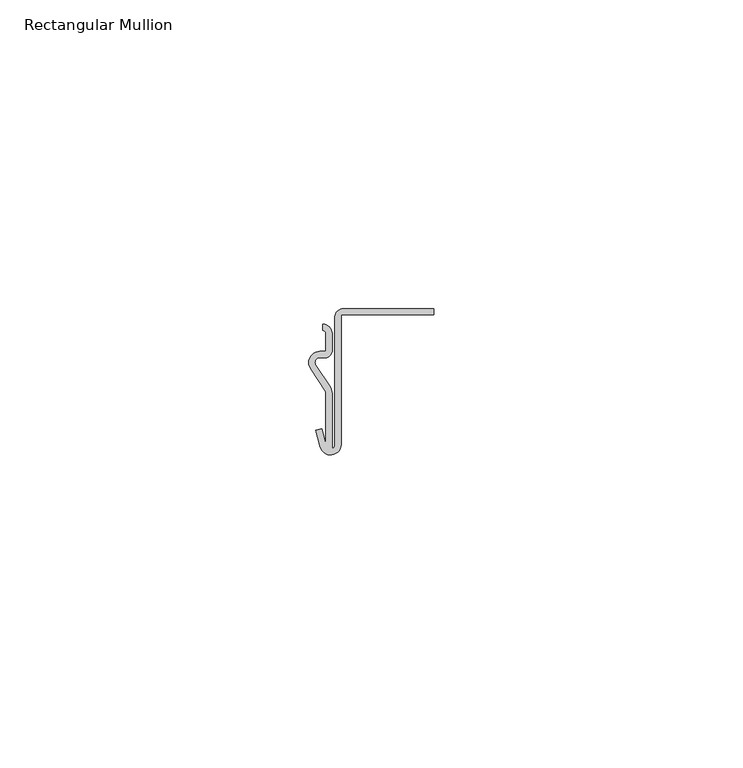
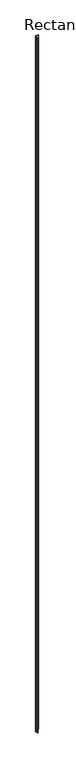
"""IFC4 building model written with IfcOpenShell, lengths in millimetres: member geometry, Rectangular Mullion : Stratco_Hiland_Tray Snaplock_25mm Rib_Underlap Tray."""

from ifc_helpers import new_model, si_unit, point, frame, frame_2d, origin, place, context, project, spatial, polyline, circle_curve, trimmed, segment, composite_curve, outline, extrude, source, transform, mapped, element, save


def rectangular_mullion_c66cf88a(model_context):
    return source(origin(), model_context, "Body", "SweptSolid", [
        extrude(outline(composite_curve([segment(polyline([(-17.5028833, -6.9114098), (-17.5028833, -3.9971167)]), True, "CONTINUOUS"), segment(trimmed(circle_curve(frame_2d((-18.0, -3.9971167)), 0.4971167), [point((-17.5028833, -3.9971167))], [point((-18.0, -3.5))], True, "CARTESIAN"), True, "CONTINUOUS"), segment(polyline([(-18.0, -3.5), (-18.0, -2.4999999)]), True, "CONTINUOUS"), segment(trimmed(circle_curve(frame_2d((-18.0, -3.9973005)), 1.4973006), [point((-18.0, -2.4999999))], [point((-16.5026994, -3.9973005))], False, "CARTESIAN"), True, "CONTINUOUS"), segment(polyline([(-16.5026994, -3.9973005), (-16.5026994, -6.9288725)]), True, "CONTINUOUS"), segment(trimmed(circle_curve(frame_2d((-17.5580688, -6.8533411)), 1.0580688), [point((-16.5026994, -6.9288725))], [point((-17.5580688, -7.9114098))], False, "CARTESIAN"), True, "CONTINUOUS"), segment(polyline([(-17.5580688, -7.9114098), (-18.4747805, -7.9114098)]), True, "CONTINUOUS"), segment(trimmed(circle_curve(frame_2d((-18.4747805, -8.705404)), 0.7939942), [point((-18.4747805, -7.9114098))], [point((-19.1379942, -9.1419522))], True, "CARTESIAN"), True, "CONTINUOUS"), segment(polyline([(-19.1379942, -9.1419522), (-16.8253915, -12.65531)]), True, "CONTINUOUS"), segment(trimmed(circle_curve(frame_2d((-18.4755165, -13.7414742)), 1.9755165), [point((-16.8253915, -12.65531))], [point((-16.5, -13.7414742))], False, "CARTESIAN"), True, "CONTINUOUS"), segment(polyline([(-16.5, -13.7414742), (-16.5, -22.6296637)]), True, "CONTINUOUS"), segment(trimmed(circle_curve(frame_2d((-16.7445319, -21.9531105)), 0.7193887), [point((-16.5, -22.6296637))], [point((-16.0252856, -21.9674219))], True, "CARTESIAN"), True, "CONTINUOUS"), segment(polyline([(-16.0252856, -21.9674219), (-16.0254232, -1.3275288)]), True, "CONTINUOUS"), segment(trimmed(circle_curve(frame_2d((-14.6978635, -1.3275108)), 1.3275596), [point((-16.0254232, -1.3275288))], [point((-14.6978635, 4.88e-05))], False, "CARTESIAN"), True, "CONTINUOUS"), segment(polyline([(-14.6978635, 4.88e-05), (0.0, 4.88e-05), (0.0, -0.9999512), (-15.0254276, -0.9999512), (-15.0254276, -21.9843803)]), True, "CONTINUOUS"), segment(trimmed(circle_curve(frame_2d((-16.7445319, -21.9531105)), 1.7193887), [point((-15.0254276, -21.9843803))], [point((-18.4053102, -22.3982093))], False, "CARTESIAN"), True, "CONTINUOUS"), segment(polyline([(-18.4053102, -22.3982093), (-19.1410012, -19.6531565), (-18.1750891, -19.3942861), (-17.5, -21.9132175), (-17.5, -13.4492305), (-19.9732821, -9.691765)]), True, "CONTINUOUS"), segment(trimmed(circle_curve(frame_2d((-18.4747805, -8.705404)), 1.7939942), [point((-19.9732821, -9.691765))], [point((-18.4747805, -6.9114098))], False, "CARTESIAN"), True, "CONTINUOUS"), segment(polyline([(-18.4747805, -6.9114098), (-17.5028833, -6.9114098)]), True, "CONTINUOUS")], self_intersect=False)), frame((0.0, 0.0, -4000.0), z_axis=(0.0, 0.0, 1.0), x_axis=(1.0, 0.0, 0.0)), (0.0, 0.0, 1.0), 4000.0),
    ])


if __name__ == "__main__":
    model = new_model("IFC4")
    model_context = context("Model", 3, world=origin())
    ifc_project = project(units=[si_unit("LENGTHUNIT", "METRE", prefix="MILLI")], contexts=[model_context])
    site = spatial("IfcSite", under=ifc_project)
    building = spatial("IfcBuilding", under=site)
    placement = place(None, origin())
    rectangular_mullion_shape = rectangular_mullion_c66cf88a(model_context)
    element("IfcMember", 1, ObjectType="Rectangular Mullion : Stratco_Hiland_Tray Snaplock_25mm Rib_Underlap Tray", at=placement, inside=building, context=model_context, shape_type="MappedRepresentation", body=[
        mapped(rectangular_mullion_shape, transform((0.0, 0.0, 0.0), x_axis=(1.0, 0.0, 0.0), y_axis=(0.0, 1.0, 0.0), z_axis=(0.0, 0.0, 1.0))),
    ])
    save(model, "model.ifc")
